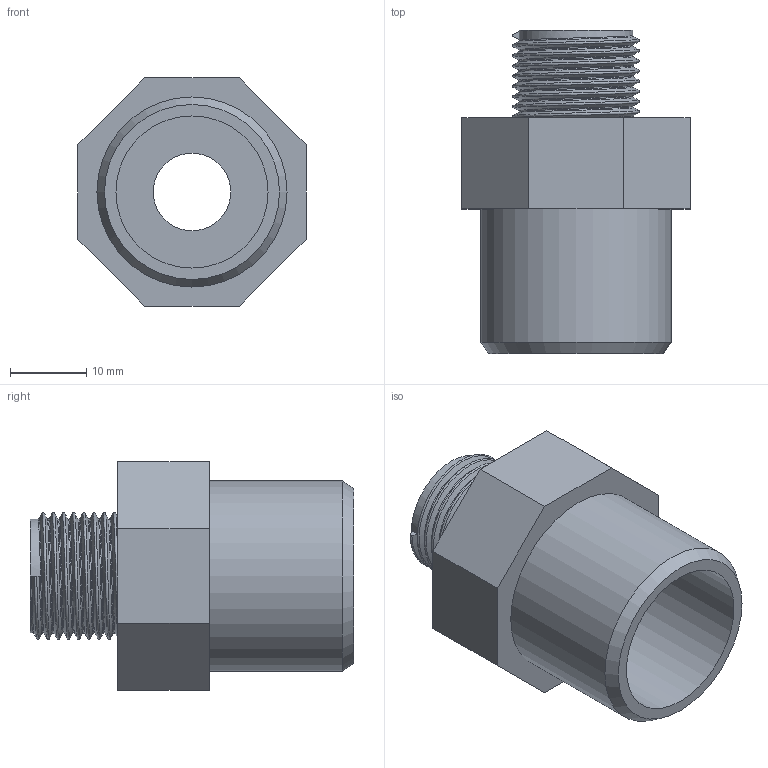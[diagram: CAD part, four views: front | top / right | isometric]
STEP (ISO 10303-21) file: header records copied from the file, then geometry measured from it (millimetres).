
FILE_DESCRIPTION(/* description */ ('PVC adattatore incollaggio-filettatura BSP maschio'),/* implementation_level */ '2;1');
FILE_NAME(/* name */ 'C:\Users\POLYPIPE\Desktop\DATASET INVENTOR\LIBRERIA EFFAST\RACCORDI 3DxWEB\RGR\3D_RGRAMG\3D_RGRAMG020A.stp',/* time_stamp */ '2018-01-19T17:34:09+01:00',/* author */ ('POLYPIPE'),/* organization */ ('Polypipe Italia s.r.l.'),/* preprocessor_version */ 'ST-DEVELOPER v16.1',/* originating_system */ 'Autodesk Inventor 2016',/* authorisation */ '');
FILE_SCHEMA (('CONFIG_CONTROL_DESIGN'));
Length unit declared in the file: millimetre
Products named in the file (1): 3D_RGRAMG
Bounding box: 30 x 42.5 x 30 mm (x, y, z)
Volume: 12976.6 mm3; surface area: 6796.5 mm2
Topology: 1 solids, 1 shells, 26 faces, 56 edges, 36 vertices
Faces by surface type: plane 15, cylinder 5, bspline 5, cone 1
Full cylindrical faces by diameter (mm): 10.2 x1, 11.2 x1, 14.95 x1, 20 x1, 25 x1
Entity records: 3821 total; most frequent: CARTESIAN_POINT 3268, ORIENTED_EDGE 102, DIRECTION 97, EDGE_CURVE 51, EDGE_LOOP 37, VERTEX_POINT 36, AXIS2_PLACEMENT_3D 35, LINE 27
